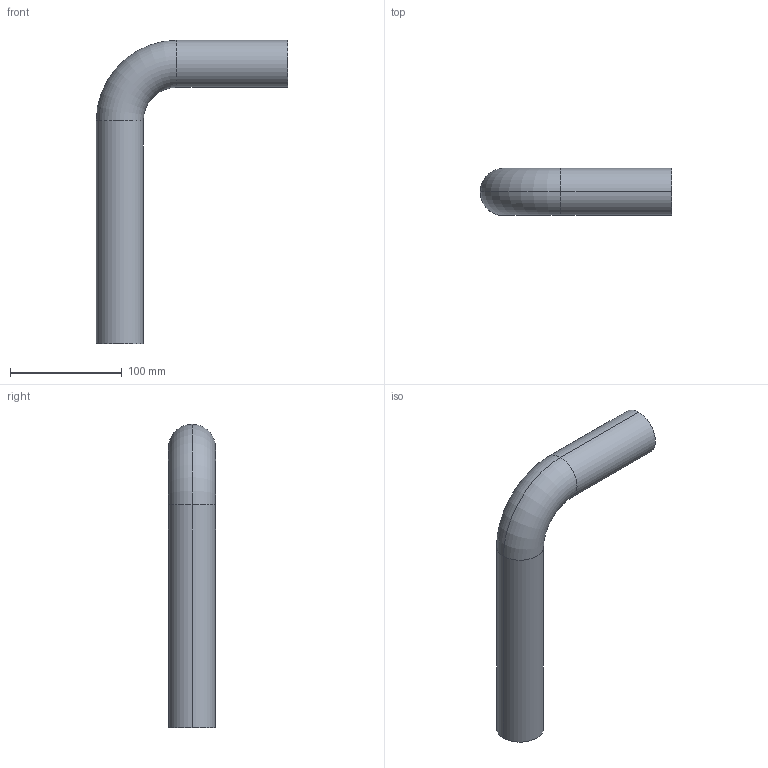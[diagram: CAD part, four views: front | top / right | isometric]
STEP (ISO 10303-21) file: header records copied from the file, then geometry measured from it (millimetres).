
FILE_DESCRIPTION(('OneSpaceDesigner STEP Export'),'2;1');
FILE_NAME('R2725 42x42.stp','2010-06-10T13:03:14',(''),(''),'OneSpace Designer STEP processor for AP214 (Solid Model)','OneSpace Modeling 15.00A 14-Mar-2007 (C) CoCreate Software GmbH','');
FILE_SCHEMA(('AUTOMOTIVE_DESIGN { 1 0 10303 214 1 1 1 1 }'));
Length unit declared in the file: millimetre
Products named in the file (2): R2725_42x42
Assembly tree (1 placements, depth 2):
  R2725_42x42
    R2725_42x42
Bounding box: 171 x 42 x 271 mm (x, y, z)
Volume: 72163.1 mm3; surface area: 96599.1 mm2
Topology: 1 solids, 1 shells, 14 faces, 29 edges, 17 vertices
Faces by surface type: cylinder 8, torus 4, plane 2
Entity records: 362 total; most frequent: ORIENTED_EDGE 58, DIRECTION 56, CARTESIAN_POINT 49, EDGE_CURVE 29, AXIS2_PLACEMENT_3D 24, VERTEX_POINT 17, EDGE_LOOP 16, CIRCLE 14
